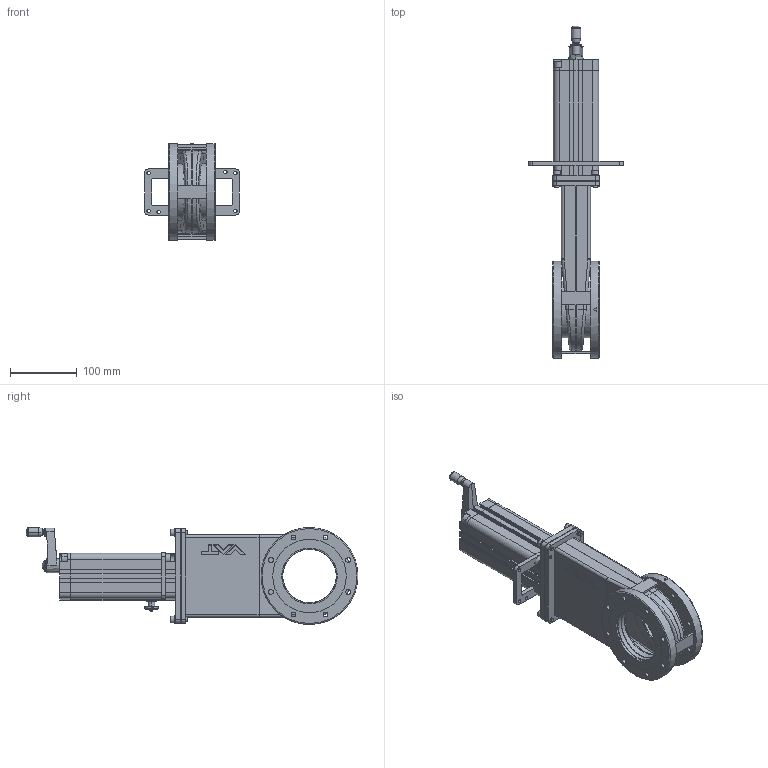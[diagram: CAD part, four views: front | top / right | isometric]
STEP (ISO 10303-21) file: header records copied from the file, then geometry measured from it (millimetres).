
FILE_DESCRIPTION(/* description */ (''),/* implementation_level */ '2;1');
FILE_NAME(/* name */ '1473387786_203.stp',/* time_stamp */ '2010-08-31T08:07:10+02:00',/* author */ (''),/* organization */ (''),/* preprocessor_version */ 'ST-DEVELOPER v11',/* originating_system */ 'SIEMENS UGS NX 6.0',/* authorisation */ '');
FILE_SCHEMA (('CONFIG_CONTROL_DESIGN'));
Length unit declared in the file: millimetre
Products named in the file (29): 351945.10; 351298.6; 395127; 356605.3; 251262.4; 351301.5; 301626.1; 342971.1; 343006.1; N-6092-118.1; 350896.2; 441927; n-6134-408; n-6195-408; 218189; 260719.2; 350855.2; 260826.1; 362706.4; 301646.1; 259432.1; 260722.6; 332680.2; 259597.1; 351296.12; 351302.14; 343008.1; 350915.1; 459027
Assembly tree (45 placements, depth 4):
  459027
    259597.1  x4
    350915.1
      350896.2
      N-6092-118.1  x2
    343008.1
      343006.1
      342971.1  x2
      301626.1
    351302.14
      351301.5  x2
      351296.12
        351945.10  x2
        356605.3
      251262.4  x3
      356605.3
      395127
      351298.6
    332680.2
    260722.6
    259432.1
    301646.1
    362706.4
    260826.1
    350855.2
    260719.2
    218189  x4
    n-6195-408
    n-6134-408  x4
    441927  x2
Bounding box: 142 x 496.66 x 145 mm (x, y, z)
Volume: 1059330.3 mm3; surface area: 453730.7 mm2
Topology: 49 solids, 49 shells, 1408 faces, 3635 edges, 2388 vertices
Faces by surface type: plane 772, cylinder 421, revolution 94, cone 65, bspline 28, extrusion 14, sphere 12, torus 2
Full cylindrical faces by diameter (mm): 2.2 x1, 2.5 x2, 3 x2, 3.17 x1, 4 x2, 4.96 x4, 4.985 x1, 4.991 x2, 5 x8, 5.2 x12, 5.22 x4, 5.3 x1, 6 x8, 6.4 x4, 6.5 x10, 7.2 x16, 10 x4, 10.008 x1, 10.4 x4, 11 x6, 11.5 x4, 12 x2, 14 x3, 15 x1, 15.2 x1, 16 x1, 16.2 x1, 21.976 x1, 23 x1, 25.345 x1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
Entity records: 34807 total; most frequent: CARTESIAN_POINT 7158, DIRECTION 4909, ORIENTED_EDGE 4818, EDGE_CURVE 2409, AXIS2_PLACEMENT_3D 1698, VERTEX_POINT 1690, VECTOR 1461, LINE 1447
